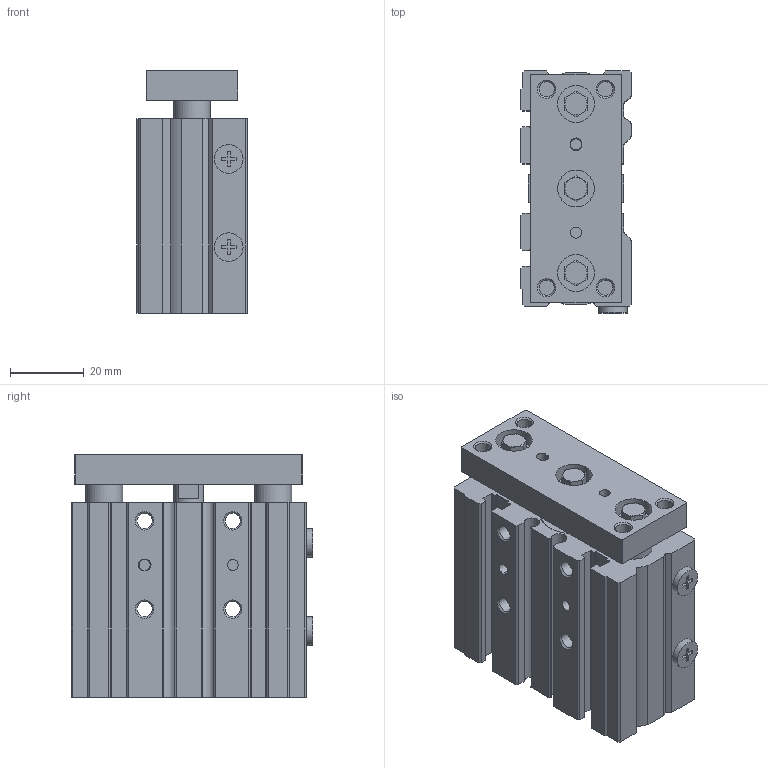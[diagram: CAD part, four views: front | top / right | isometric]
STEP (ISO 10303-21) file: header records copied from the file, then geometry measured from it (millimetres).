
FILE_DESCRIPTION( ( 'STEP AP214' ), '1' );
FILE_NAME( 'C:/Users/emc02044/Desktop/SGL SGM/SGM16X20-S.stp', '2026-07-24T01:02:54', ( 'License CC BY-ND 4.0' ), ( 'CADENAS' ), ' ', 'PARTsolutions', ' ' );
FILE_SCHEMA( ( 'AUTOMOTIVE_DESIGN { 1 0 10303 214 1 1 1 1 }' ) );
Length unit declared in the file: millimetre
Products named in the file (4): SGM16X20X0-S(); _SGM16x20-M(SG:Shaft cylinderM16X20X0-S:with magnet()dummy-0) 0; _SGM16x20-M(-0)-body; _SGM16x20-M(-0)-rod
Assembly tree (3 placements, depth 2):
  SGM16X20X0-S()
    _SGM16x20-M(SG:Shaft cylinderM16X20X0-S:with magnet()dummy-0) 0
    _SGM16x20-M(-0)-body
    _SGM16x20-M(-0)-rod
Bounding box: 30 x 65.8 x 66 mm (x, y, z)
Volume: 90148.2 mm3; surface area: 37243.7 mm2
Topology: 2 solids, 4 shells, 352 faces, 863 edges, 556 vertices
Faces by surface type: plane 186, cylinder 107, cone 59
Full cylindrical faces by diameter (mm): 3 x6, 4.134 x16, 4.2 x4, 7.8 x2, 8 x6, 10 x7, 13 x2, 16 x2, 18 x2
Entity records: 12924 total; most frequent: CARTESIAN_POINT 1977, DIRECTION 1682, ORIENTED_EDGE 1562, EDGE_CURVE 781, AXIS2_PLACEMENT_3D 633, VERTEX_POINT 543, EDGE_LOOP 478, LINE 416
